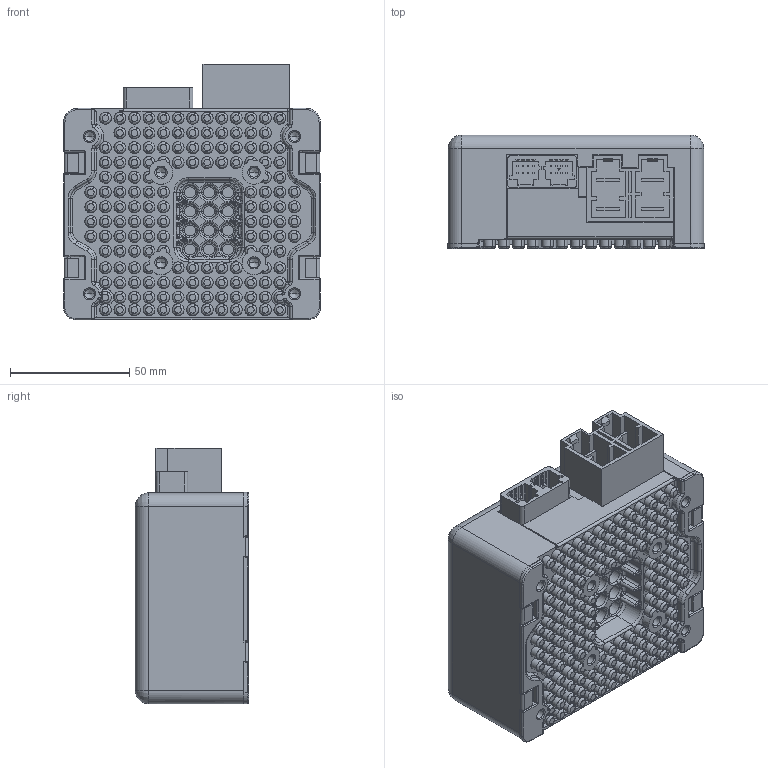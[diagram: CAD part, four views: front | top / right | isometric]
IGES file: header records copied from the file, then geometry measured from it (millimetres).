
Start section: START RECORD GO HERE.
Global section: file name: EA10_ECU.igs; native system: DASSAULT SYSTEMES CATIA Version 5-6 Release 2023 - www.3ds.com; preprocessor: V5-6R2023_5.33.5.3.12-06-2024.11.00; author: ARJ; organization: ARJ.co.ltd; date: 20260312.160213; units: millimetre
Bounding box: 107.6 x 47.6 x 107.16 mm (x, y, z)
Volume: 418434.3 mm3; surface area: 62087.8 mm2
Topology: 1 solids, 1 shells, 1771 faces, 4152 edges, 2519 vertices
Faces by surface type: revolution 1071, plane 605, bspline 87, extrusion 8
